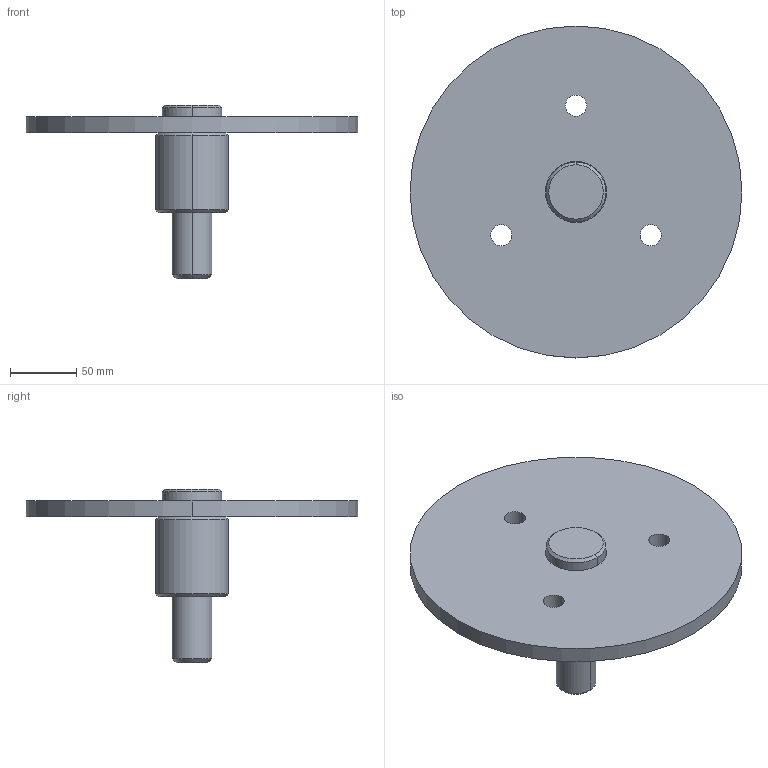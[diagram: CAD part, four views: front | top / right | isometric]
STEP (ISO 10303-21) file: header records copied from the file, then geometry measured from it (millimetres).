
FILE_DESCRIPTION (( 'STEP AP203' ), '1' );
FILE_NAME ('S-RB1830-05禱芃嘐隅啣郪.STEP', '2025-10-29T12:32:51', ( '' ), ( '' ), 'SwSTEP 2.0', 'SolidWorks 2018', '' );
FILE_SCHEMA (( 'CONFIG_CONTROL_DESIGN' ));
Length unit declared in the file: millimetre
Products named in the file (3): S-RB1830-05-01-45#酘蟀諉粣; S-CB1830-08-01-Q345埴啣T12; S-RB1830-05禱芃嘐隅啣郪
Assembly tree (2 placements, depth 2):
  S-RB1830-05禱芃嘐隅啣郪
    S-CB1830-08-01-Q345埴啣T12
    S-RB1830-05-01-45#酘蟀諉粣
Bounding box: 250 x 250 x 131 mm (x, y, z)
Volume: 771814.7 mm3; surface area: 128649.7 mm2
Topology: 2 solids, 2 shells, 30 faces, 64 edges, 40 vertices
Faces by surface type: cylinder 16, cone 8, plane 6
Entity records: 1145 total; most frequent: DIRECTION 174, CARTESIAN_POINT 139, ORIENTED_EDGE 128, AXIS2_PLACEMENT_3D 75, EDGE_CURVE 64, CIRCLE 40, EDGE_LOOP 40, VERTEX_POINT 40
